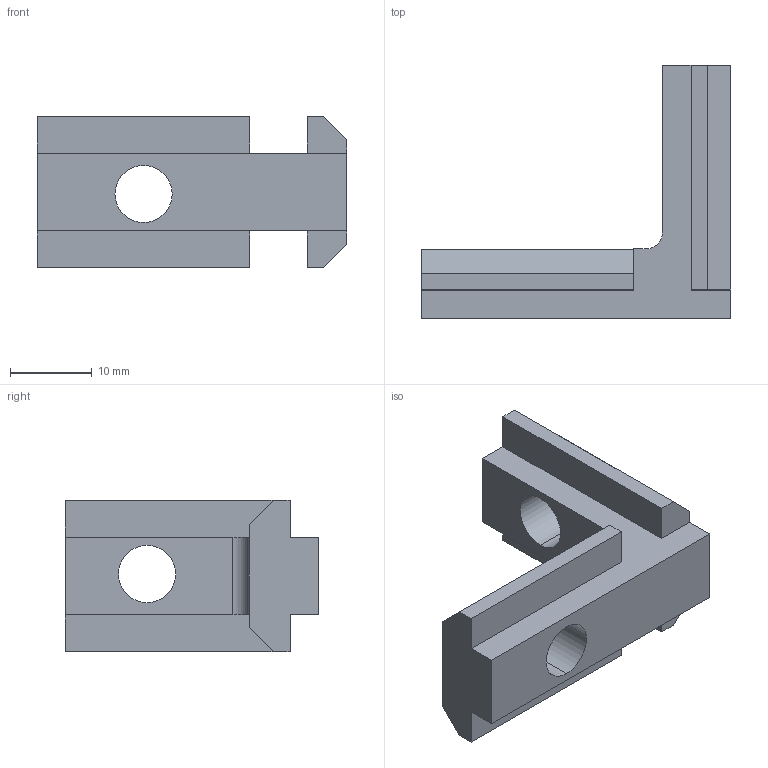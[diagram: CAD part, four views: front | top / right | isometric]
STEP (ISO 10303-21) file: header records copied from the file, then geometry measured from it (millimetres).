
FILE_DESCRIPTION (( 'STEP AP203' ), '1' );
FILE_NAME ('2034.STEP', '2016-03-23T14:51:44', ( '' ), ( '' ), 'SwSTEP 2.0', 'SolidWorks 2014', '' );
FILE_SCHEMA (( 'CONFIG_CONTROL_DESIGN' ));
Length unit declared in the file: millimetre
Products named in the file (1): 2034
Bounding box: 37.85 x 31 x 18.5 mm (x, y, z)
Volume: 6127.2 mm3; surface area: 3463 mm2
Topology: 1 solids, 1 shells, 31 faces, 85 edges, 56 vertices
Faces by surface type: plane 26, cylinder 5
Entity records: 1058 total; most frequent: CARTESIAN_POINT 173, ORIENTED_EDGE 170, DIRECTION 159, EDGE_CURVE 85, VECTOR 75, LINE 75, VERTEX_POINT 56, AXIS2_PLACEMENT_3D 42
